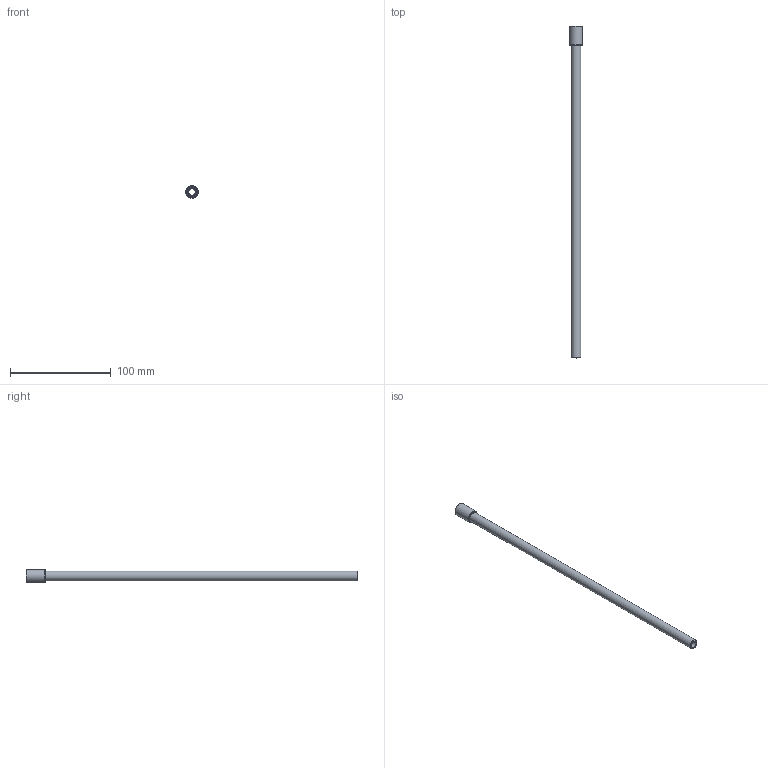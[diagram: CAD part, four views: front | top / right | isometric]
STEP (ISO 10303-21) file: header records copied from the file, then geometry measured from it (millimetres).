
FILE_DESCRIPTION(/* description */ (''),/* implementation_level */ '2;1');
FILE_NAME(/* name */ 'C:/Users/drich/Desktop/EP18X13 v1.step',/* time_stamp */ '2019-11-18T15:05:03-06:00',/* author */ (''),/* organization */ (''),/* preprocessor_version */ 'ST-DEVELOPER v18',/* originating_system */ 'Autodesk Translation Framework v8.12.0.6',/* authorisation */ '');
FILE_SCHEMA (('AUTOMOTIVE_DESIGN { 1 0 10303 214 3 1 1 }'));
Length unit declared in the file: inch
Products named in the file (2): EP18X13; EP18X4
Assembly tree (1 placements, depth 2):
  EP18X13
    EP18X4
Bounding box: 12.7 x 330.2 x 12.7 mm (x, y, z)
Volume: 14213.4 mm3; surface area: 16994.8 mm2
Topology: 1 solids, 1 shells, 23 faces, 55 edges, 37 vertices
Faces by surface type: plane 11, cone 7, cylinder 5
Full cylindrical faces by diameter (mm): 6.35 x1, 7.62 x1, 8.707 x1, 9.621 x1, 12.7 x1
Entity records: 740 total; most frequent: CARTESIAN_POINT 132, DIRECTION 124, ORIENTED_EDGE 110, EDGE_CURVE 55, AXIS2_PLACEMENT_3D 50, VERTEX_POINT 37, EDGE_LOOP 28, LINE 24
